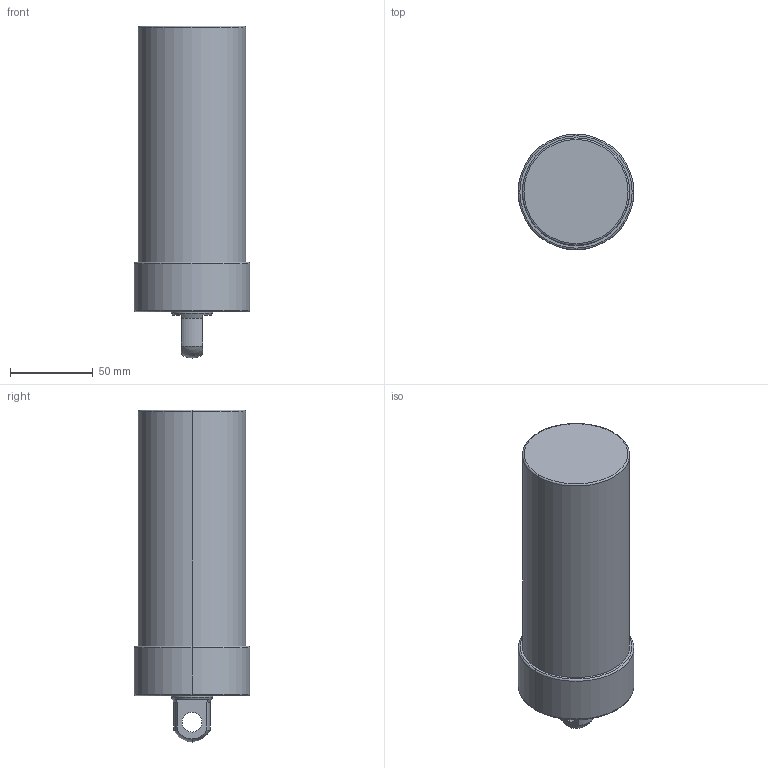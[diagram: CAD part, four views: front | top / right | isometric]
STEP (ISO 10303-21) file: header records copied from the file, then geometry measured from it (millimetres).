
FILE_DESCRIPTION (( 'STEP AP203' ), '1' );
FILE_NAME ('CLLU-065GP-110.STEP', '2020-01-08T00:35:47', ( '' ), ( '' ), 'SwSTEP 2.0', 'SolidWorks 2015', '' );
FILE_SCHEMA (( 'CONFIG_CONTROL_DESIGN' ));
Length unit declared in the file: millimetre
Products named in the file (1): CLLU-065GP-110
Bounding box: 70 x 70 x 201 mm (x, y, z)
Volume: 594056.8 mm3; surface area: 46157 mm2
Topology: 1 solids, 1 shells, 57 faces, 130 edges, 75 vertices
Faces by surface type: cylinder 22, cone 18, plane 9, torus 6, sphere 2
Entity records: 1643 total; most frequent: DIRECTION 308, CARTESIAN_POINT 267, ORIENTED_EDGE 244, AXIS2_PLACEMENT_3D 132, EDGE_CURVE 122, VERTEX_POINT 75, CIRCLE 74, EDGE_LOOP 67
